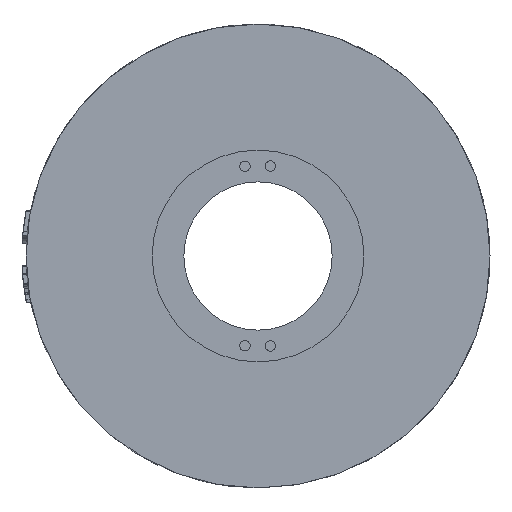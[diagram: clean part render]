
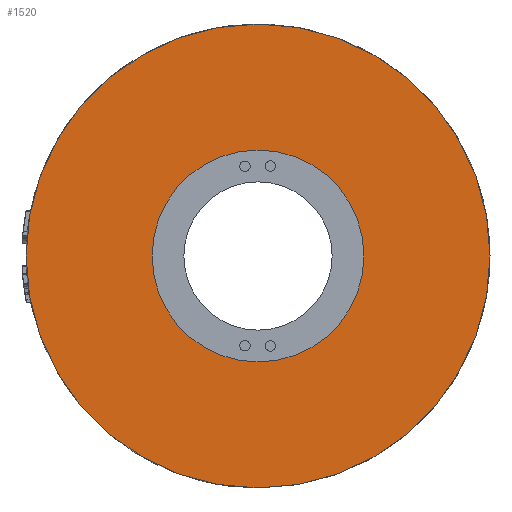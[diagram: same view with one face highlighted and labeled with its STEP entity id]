
A CAD part, left-side view. The second image highlights one B-rep face of the part: STEP entity #1520.
In plain terms, the highlighted planar face has unit normal (-1, 0, 0) by its records, which use the part's own axes.
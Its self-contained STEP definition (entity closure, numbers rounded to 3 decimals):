
#76=FACE_BOUND('',#2823,.T.);
#77=FACE_BOUND('',#2824,.T.);
#227=CIRCLE('',#10577,5.);
#228=CIRCLE('',#10579,10.95);
#1520=ADVANCED_FACE('',(#76,#77),#1839,.F.);
#1839=PLANE('',#10580);
#2823=EDGE_LOOP('',(#4786));
#2824=EDGE_LOOP('',(#4787));
#4786=ORIENTED_EDGE('',*,*,#8436,.T.);
#4787=ORIENTED_EDGE('',*,*,#8437,.F.);
#6998=VERTEX_POINT('',#20885);
#6999=VERTEX_POINT('',#20888);
#8436=EDGE_CURVE('',#6998,#6998,#227,.T.);
#8437=EDGE_CURVE('',#6999,#6999,#228,.T.);
#10577=AXIS2_PLACEMENT_3D('',#20884,#11621,#11622);
#10579=AXIS2_PLACEMENT_3D('',#20887,#11625,#11626);
#10580=AXIS2_PLACEMENT_3D('',#20889,#11627,#11628);
#11621=DIRECTION('',(1.,0.,0.));
#11622=DIRECTION('',(0.,0.,-1.));
#11625=DIRECTION('',(1.,0.,0.));
#11626=DIRECTION('',(0.,0.,-1.));
#11627=DIRECTION('',(1.,0.,0.));
#11628=DIRECTION('',(0.,0.,-1.));
#20884=CARTESIAN_POINT('',(0.4,0.,0.));
#20885=CARTESIAN_POINT('',(0.4,0.,-5.));
#20887=CARTESIAN_POINT('',(0.4,0.,0.));
#20888=CARTESIAN_POINT('',(0.4,0.,-10.95));
#20889=CARTESIAN_POINT('',(0.4,0.,0.));
